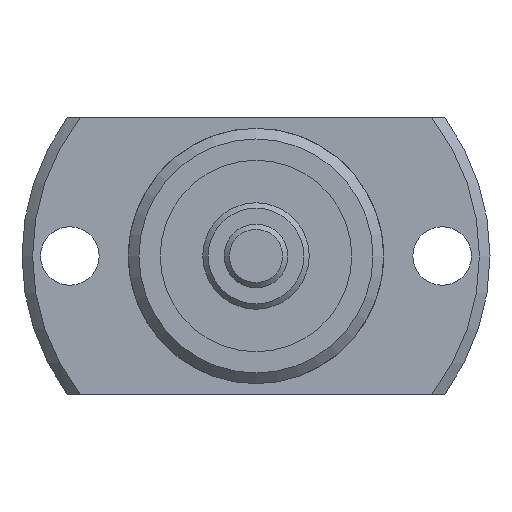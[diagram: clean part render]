
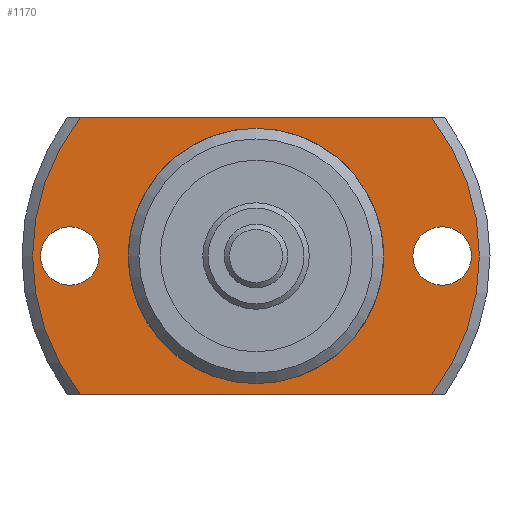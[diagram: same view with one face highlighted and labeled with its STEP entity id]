
A CAD part, left-side view. The second image highlights one B-rep face of the part: STEP entity #1170.
In plain terms, the highlighted planar face has unit normal (-1, 0, 0).
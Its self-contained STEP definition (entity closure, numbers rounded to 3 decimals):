
#121=CIRCLE('',#1303,11.75);
#124=CIRCLE('',#1307,21.);
#130=CIRCLE('',#1318,2.75);
#131=CIRCLE('',#1319,2.75);
#132=CIRCLE('',#1320,21.);
#274=ORIENTED_EDGE('',*,*,#541,.T.);
#275=ORIENTED_EDGE('',*,*,#542,.T.);
#276=ORIENTED_EDGE('',*,*,#530,.F.);
#277=ORIENTED_EDGE('',*,*,#543,.T.);
#278=ORIENTED_EDGE('',*,*,#544,.F.);
#279=ORIENTED_EDGE('',*,*,#545,.T.);
#280=ORIENTED_EDGE('',*,*,#524,.T.);
#524=EDGE_CURVE('',#670,#670,#121,.T.);
#530=EDGE_CURVE('',#675,#676,#124,.T.);
#541=EDGE_CURVE('',#685,#685,#130,.T.);
#542=EDGE_CURVE('',#686,#686,#131,.T.);
#543=EDGE_CURVE('',#675,#687,#760,.T.);
#544=EDGE_CURVE('',#688,#687,#132,.T.);
#545=EDGE_CURVE('',#688,#676,#761,.T.);
#670=VERTEX_POINT('',#1916);
#675=VERTEX_POINT('',#1930);
#676=VERTEX_POINT('',#1932);
#685=VERTEX_POINT('',#1966);
#686=VERTEX_POINT('',#1968);
#687=VERTEX_POINT('',#1970);
#688=VERTEX_POINT('',#1972);
#760=LINE('',#1969,#820);
#761=LINE('',#1973,#821);
#820=VECTOR('',#1583,1000.);
#821=VECTOR('',#1586,1000.);
#914=EDGE_LOOP('',(#274));
#915=EDGE_LOOP('',(#275));
#916=EDGE_LOOP('',(#276,#277,#278,#279));
#917=EDGE_LOOP('',(#280));
#1034=FACE_BOUND('',#914,.T.);
#1035=FACE_BOUND('',#915,.T.);
#1036=FACE_BOUND('',#916,.T.);
#1037=FACE_BOUND('',#917,.T.);
#1111=PLANE('',#1317);
#1170=ADVANCED_FACE('',(#1034,#1035,#1036,#1037),#1111,.F.);
#1303=AXIS2_PLACEMENT_3D('',#1915,#1545,#1546);
#1307=AXIS2_PLACEMENT_3D('',#1931,#1555,#1556);
#1317=AXIS2_PLACEMENT_3D('',#1964,#1577,#1578);
#1318=AXIS2_PLACEMENT_3D('',#1965,#1579,#1580);
#1319=AXIS2_PLACEMENT_3D('',#1967,#1581,#1582);
#1320=AXIS2_PLACEMENT_3D('',#1971,#1584,#1585);
#1545=DIRECTION('',(1.,0.,0.));
#1546=DIRECTION('',(0.,0.,-1.));
#1555=DIRECTION('',(1.,0.,0.));
#1556=DIRECTION('',(0.,0.,-1.));
#1577=DIRECTION('',(1.,0.,0.));
#1578=DIRECTION('',(0.,0.,-1.));
#1579=DIRECTION('',(1.,0.,0.));
#1580=DIRECTION('',(0.,0.,-1.));
#1581=DIRECTION('',(1.,0.,0.));
#1582=DIRECTION('',(0.,0.,-1.));
#1583=DIRECTION('',(0.,-1.,0.));
#1584=DIRECTION('',(1.,0.,0.));
#1585=DIRECTION('',(0.,0.,-1.));
#1586=DIRECTION('',(0.,1.,0.));
#1915=CARTESIAN_POINT('',(28.,0.,0.));
#1916=CARTESIAN_POINT('',(28.,0.,-11.75));
#1930=CARTESIAN_POINT('',(28.,16.492,-13.));
#1931=CARTESIAN_POINT('',(28.,0.,0.));
#1932=CARTESIAN_POINT('',(28.,16.492,13.));
#1964=CARTESIAN_POINT('',(28.,11.75,0.));
#1965=CARTESIAN_POINT('',(28.,-17.5,0.));
#1966=CARTESIAN_POINT('',(28.,-17.5,-2.75));
#1967=CARTESIAN_POINT('',(28.,17.5,0.));
#1968=CARTESIAN_POINT('',(28.,17.5,-2.75));
#1969=CARTESIAN_POINT('',(28.,11.75,-13.));
#1970=CARTESIAN_POINT('',(28.,-16.492,-13.));
#1971=CARTESIAN_POINT('',(28.,0.,0.));
#1972=CARTESIAN_POINT('',(28.,-16.492,13.));
#1973=CARTESIAN_POINT('',(28.,11.75,13.));
